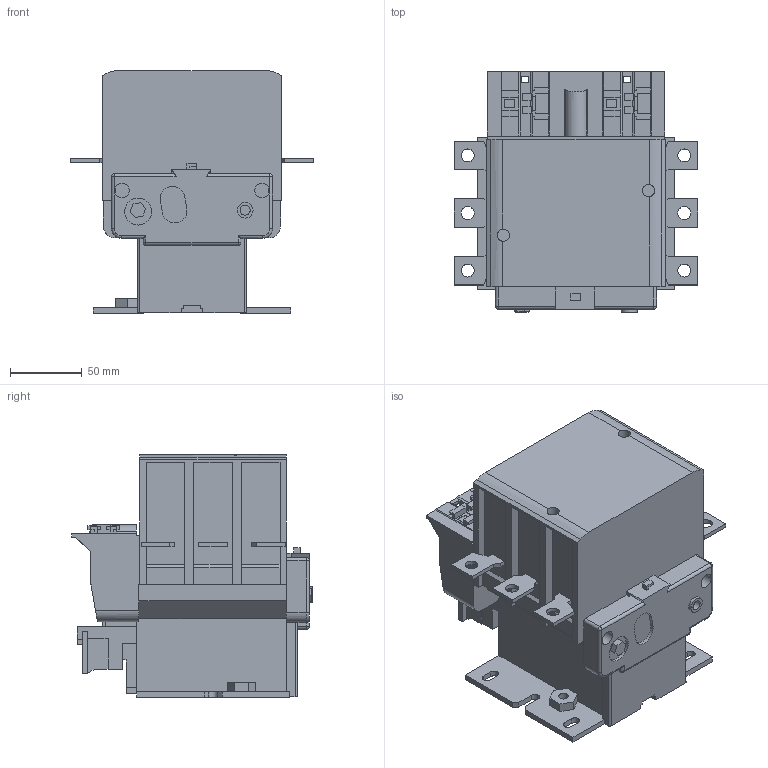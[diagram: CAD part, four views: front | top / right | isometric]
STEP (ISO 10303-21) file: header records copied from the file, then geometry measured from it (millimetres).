
FILE_DESCRIPTION(/* description */ (''),/* implementation_level */ '2;1');
FILE_NAME(/* name */ 'ck3-150.stp',/* time_stamp */ '2022-08-31T15:30:22+08:00',/* author */ (''),/* organization */ (''),/* preprocessor_version */ 'ST-DEVELOPER v14',/* originating_system */ 'SIEMENS PLM Software NX 8.0',/* authorisation */ '');
FILE_SCHEMA (('AP203_CONFIGURATION_CONTROLLED_3D_DESIGN_OF_MECHANICAL_PARTS_AND_ASSEMBLIES_MIM_LF { 1 0 10303 403 2 1 2}'));
Length unit declared in the file: millimetre
Products named in the file (1): Admi1E38C561gk6n
Bounding box: 169.4 x 167.3 x 168.7 mm (x, y, z)
Volume: 2126206.1 mm3; surface area: 166417.4 mm2
Topology: 1 solids, 1 shells, 574 faces, 1582 edges, 1037 vertices
Faces by surface type: plane 494, cylinder 74, sphere 2, torus 2, bspline 2
Full cylindrical faces by diameter (mm): 6.8 x1, 7 x1, 8.5 x2, 9 x6, 10 x2, 11 x1, 17.7 x1, 18.7 x1
Entity records: 18074 total; most frequent: CARTESIAN_POINT 3271, ORIENTED_EDGE 3124, DIRECTION 2862, EDGE_CURVE 1562, LINE 1396, VECTOR 1396, VERTEX_POINT 1034, AXIS2_PLACEMENT_3D 733
